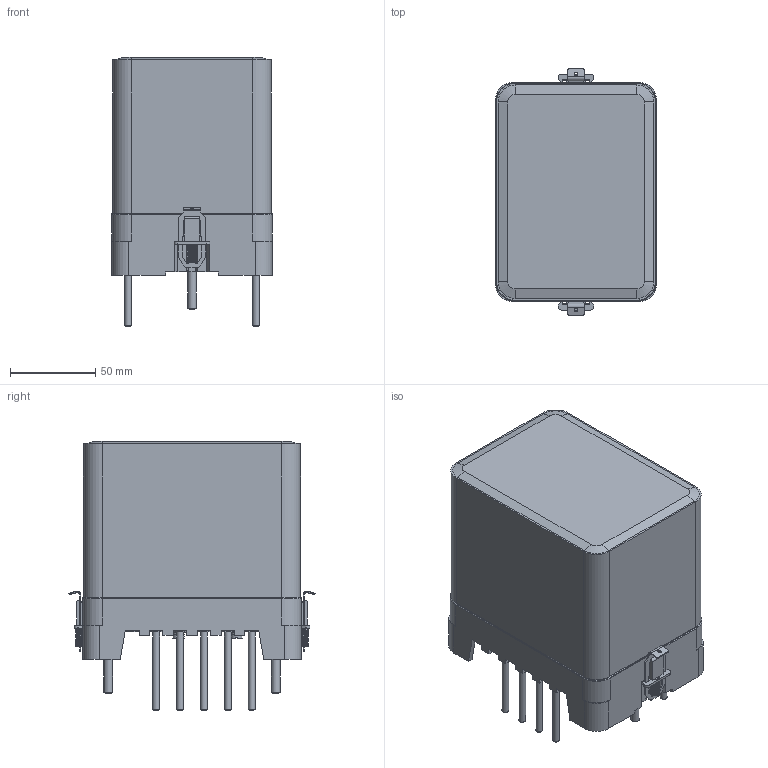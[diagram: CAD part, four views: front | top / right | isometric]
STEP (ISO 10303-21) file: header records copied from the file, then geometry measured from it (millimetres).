
FILE_DESCRIPTION(('STEP AP214'), '1');
FILE_NAME('ÐÂ215, ÐÂ218, ÐÂ225, ÐÂ228, ÐÂ235, ÐÂ238, ÐÂ245, ÐÂ248 ç.ï.øï', '', ('UNSPECIFIED'), ('UNSPECIFIED'), 'ASCON STEP Converter 1.3', 'ASCON Math Kernel', '');
FILE_SCHEMA(('AUTOMOTIVE_DESIGN { 1 0 10303 214 3 1 1}'));
Length unit declared in the file: millimetre
Bounding box: 94 x 144 x 157.5 mm (x, y, z)
Volume: 227783.2 mm3; surface area: 159191.8 mm2
Topology: 2 solids, 2 shells, 1016 faces, 2561 edges, 1575 vertices
Faces by surface type: plane 571, cylinder 287, torus 79, cone 42, sphere 31, bspline 6
Full cylindrical faces by diameter (mm): 2 x2, 3.3 x9, 3.5 x2, 4 x21, 4.3 x3, 4.5 x3, 5 x2, 5.5 x16, 8 x3, 11 x2
Entity records: 46512 total; most frequent: CARTESIAN_POINT 14277, DIRECTION 5074, ORIENTED_EDGE 4824, EDGE_CURVE 2412, AXIS2_PLACEMENT_3D 1752, LINE 1570, VECTOR 1570, VERTEX_POINT 1569
